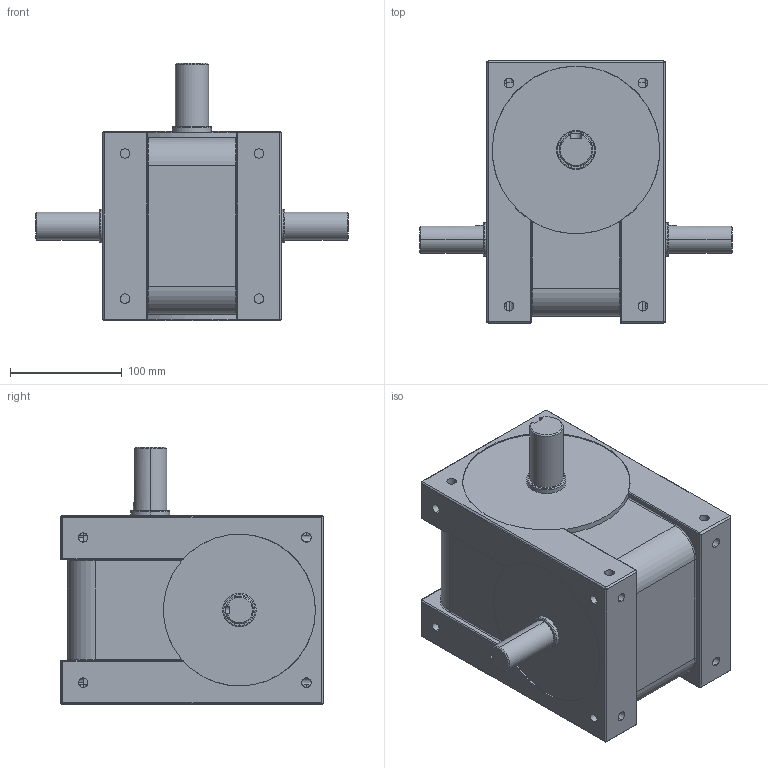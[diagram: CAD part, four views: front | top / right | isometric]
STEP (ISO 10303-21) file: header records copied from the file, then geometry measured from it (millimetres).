
FILE_DESCRIPTION((''),'2;1');
FILE_NAME('80DS','2015-01-15T',('松仔'),(''),'PRO/ENGINEER BY PARAMETRIC TECHNOLOGY CORPORATION, 2013430','PRO/ENGINEER BY PARAMETRIC TECHNOLOGY CORPORATION, 2013430','');
FILE_SCHEMA(('CONFIG_CONTROL_DESIGN'));
Length unit declared in the file: millimetre
Products named in the file (1): 80DS
Bounding box: 280 x 235 x 231 mm (x, y, z)
Volume: 6015678.6 mm3; surface area: 238054.9 mm2
Topology: 1 solids, 1 shells, 265 faces, 661 edges, 396 vertices
Faces by surface type: cylinder 143, plane 77, sphere 28, torus 14, cone 3
Entity records: 8270 total; most frequent: CARTESIAN_POINT 1930, DIRECTION 1327, ORIENTED_EDGE 1322, EDGE_CURVE 661, AXIS2_PLACEMENT_3D 520, VERTEX_POINT 396, EDGE_LOOP 295, VECTOR 287
